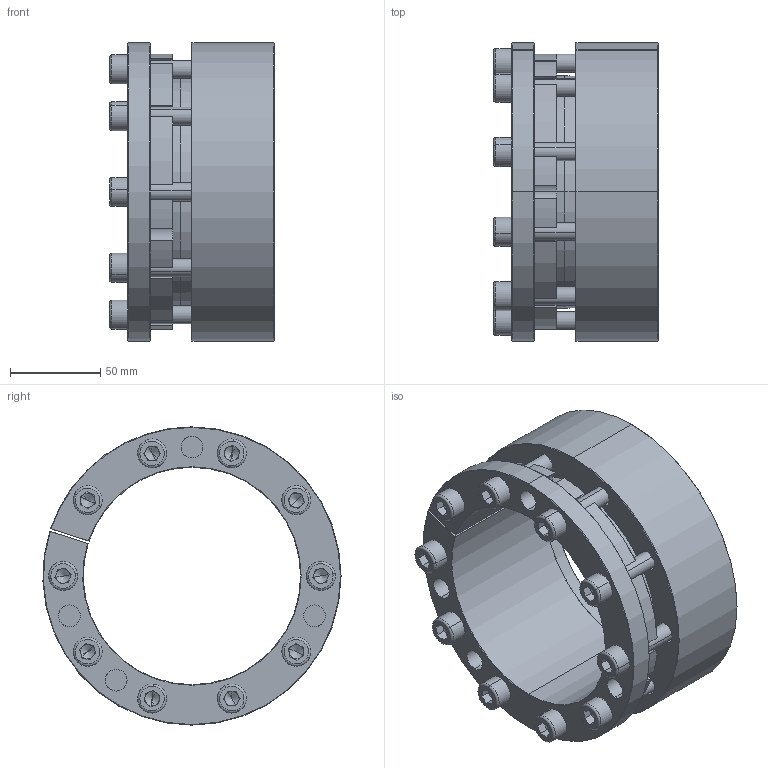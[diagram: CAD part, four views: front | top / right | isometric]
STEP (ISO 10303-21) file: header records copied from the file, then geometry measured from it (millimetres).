
FILE_DESCRIPTION (( 'STEP AP214' ), '1' );
FILE_NAME ('PL-H2 120-165.STEP', '2022-07-25T02:33:37', ( '' ), ( '' ), 'SwSTEP 2.0', 'SolidWorks 2022', '' );
FILE_SCHEMA (( 'AUTOMOTIVE_DESIGN' ));
Length unit declared in the file: millimetre
Products named in the file (1): PL-H2 120-165
Bounding box: 91.19 x 164.8 x 164.85 mm (x, y, z)
Volume: 638288.4 mm3; surface area: 154256.3 mm2
Topology: 1 solids, 1 shells, 381 faces, 969 edges, 596 vertices
Faces by surface type: plane 158, cylinder 115, cone 88, torus 20
Entity records: 11534 total; most frequent: DIRECTION 2110, CARTESIAN_POINT 2083, ORIENTED_EDGE 1898, EDGE_CURVE 949, AXIS2_PLACEMENT_3D 831, VERTEX_POINT 596, CIRCLE 449, LINE 448
